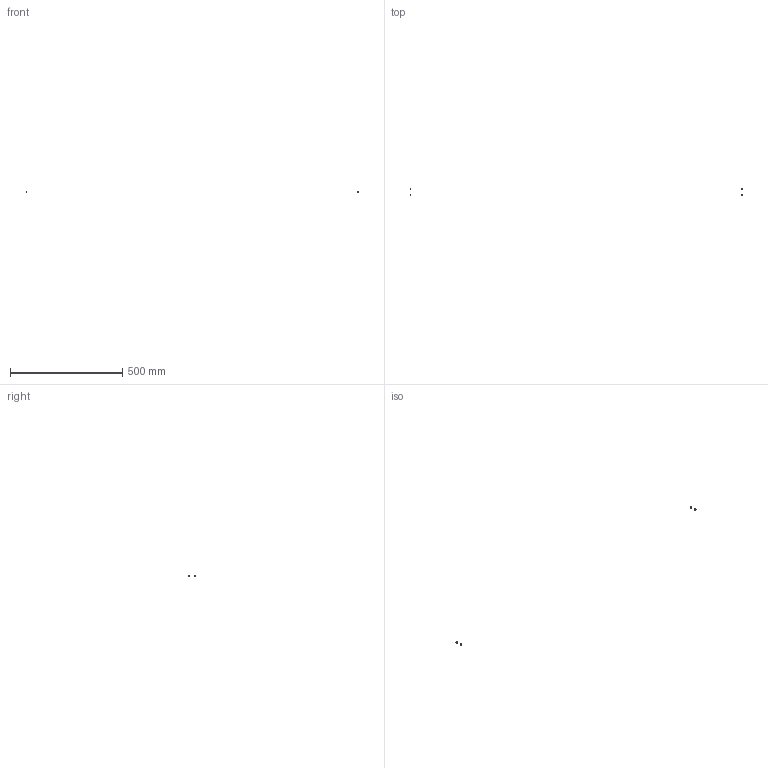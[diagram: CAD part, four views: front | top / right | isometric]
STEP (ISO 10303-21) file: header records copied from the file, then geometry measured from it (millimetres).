
FILE_DESCRIPTION(/* description */ (''),/* implementation_level */ '2;1');
FILE_NAME(/* name */ 'Y-66EC~1',/* time_stamp */ '2014-02-14T19:43:24+01:00',/* author */ (''),/* organization */ (''),/* preprocessor_version */ 'ST-DEVELOPER v14',/* originating_system */ '',/* authorisation */ '');
FILE_SCHEMA (('AUTOMOTIVE_DESIGN'));
Length unit declared in the file: millimetre
Products named in the file (2): Document; nut DIN985-like, lock, M4
Assembly tree (2 placements, depth 2):
  Document
    nut DIN985-like, lock, M4  x2
Bounding box: 1481 x 34.08 x 7 mm (x, y, z)
Volume: 461.4 mm3; surface area: 802.5 mm2
Topology: 4 solids, 4 shells, 216 faces, 520 edges, 312 vertices
Faces by surface type: bspline 124, plane 92
Entity records: 10536 total; most frequent: CARTESIAN_POINT 5639, ORIENTED_EDGE 780, PCURVE 780, DEFINITIONAL_REPRESENTATION 780, B_SPLINE_CURVE_WITH_KNOTS 747, SURFACE_CURVE 390, EDGE_CURVE 390, VERTEX_POINT 234
